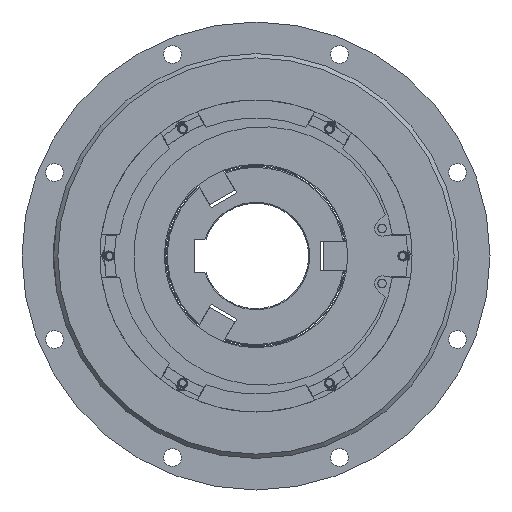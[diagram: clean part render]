
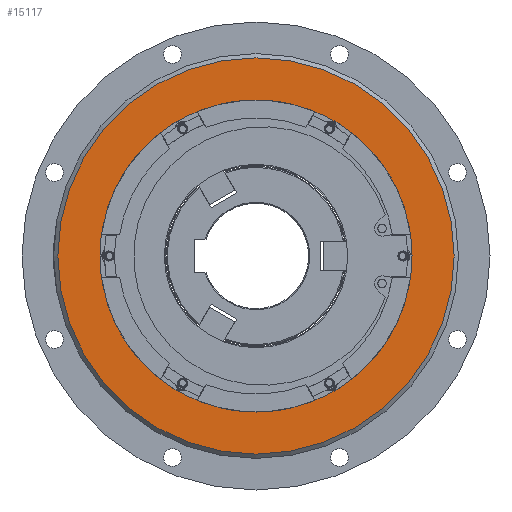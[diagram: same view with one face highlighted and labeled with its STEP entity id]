
A CAD part, left-side view. The second image highlights one B-rep face of the part: STEP entity #15117.
In plain terms, the highlighted planar face has unit normal (-1, 0, 0).
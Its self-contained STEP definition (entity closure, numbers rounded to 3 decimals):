
#941=FACE_BOUND('',#4928,.T.);
#3340=PLANE('',#16273);
#3942=FACE_OUTER_BOUND('',#4927,.T.);
#4927=EDGE_LOOP('',(#11803));
#4928=EDGE_LOOP('',(#11804));
#6205=CIRCLE('',#16271,94.);
#6207=CIRCLE('',#16274,74.);
#7402=VERTEX_POINT('',#35836);
#7404=VERTEX_POINT('',#35841);
#9103=EDGE_CURVE('',#7402,#7402,#6205,.T.);
#9105=EDGE_CURVE('',#7404,#7404,#6207,.T.);
#11803=ORIENTED_EDGE('',*,*,#9103,.F.);
#11804=ORIENTED_EDGE('',*,*,#9105,.T.);
#15117=ADVANCED_FACE('',(#3942,#941),#3340,.T.);
#16271=AXIS2_PLACEMENT_3D('',#35837,#18684,#18685);
#16273=AXIS2_PLACEMENT_3D('',#35840,#18688,#18689);
#16274=AXIS2_PLACEMENT_3D('',#35842,#18690,#18691);
#18684=DIRECTION('center_axis',(1.,0.,0.));
#18685=DIRECTION('ref_axis',(0.,-1.,0.));
#18688=DIRECTION('center_axis',(-1.,0.,0.));
#18689=DIRECTION('ref_axis',(0.,0.,1.));
#18690=DIRECTION('center_axis',(1.,0.,0.));
#18691=DIRECTION('ref_axis',(0.,1.,0.));
#35836=CARTESIAN_POINT('',(-6.176,94.,0.));
#35837=CARTESIAN_POINT('Origin',(-6.176,0.,0.));
#35840=CARTESIAN_POINT('Origin',(-6.176,85.,0.));
#35841=CARTESIAN_POINT('',(-6.176,74.,0.));
#35842=CARTESIAN_POINT('Origin',(-6.176,0.,0.));
